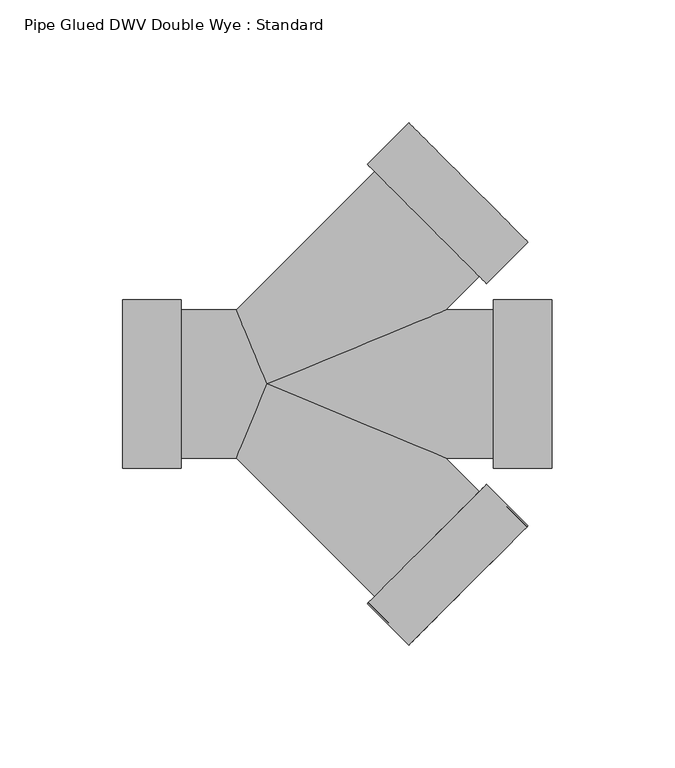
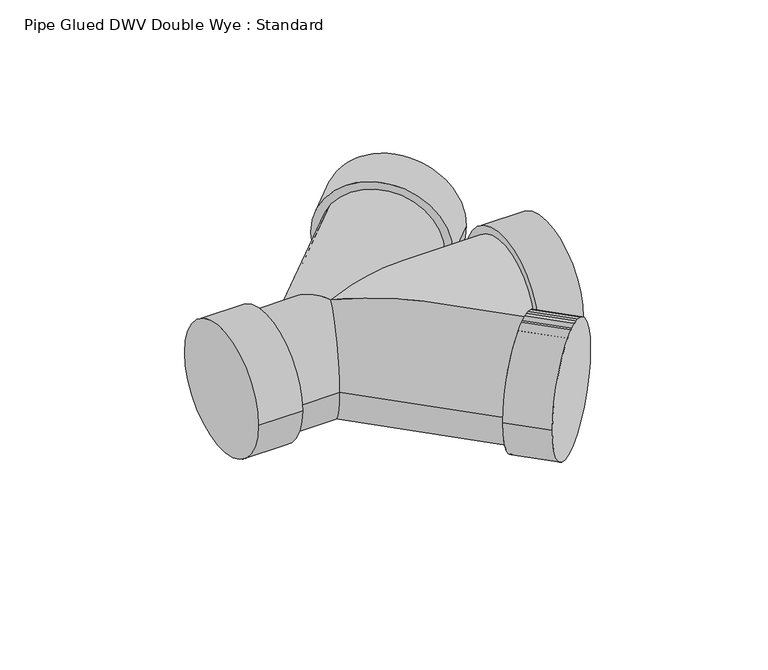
"""IFC4 building model written with IfcOpenShell, lengths in millimetres: pipe fitting geometry, Pipe Glued DWV Double Wye : Standard."""

from ifc_helpers import new_model, si_unit, frame, origin, place, context, project, spatial, circle_curve, ellipse_curve, source, transform, mapped, element, save
from ifc_brep_helpers import plane_surface, cylinder_surface, advanced_brep


def pipe_glued_dwv_double_wye_standard_5fa96171(model_context):
    return source(origin(), model_context, "Body", "AdvancedBrep", [
        advanced_brep(
        [(86.4349652, 43.7787486, 0.0), (43.7787486, 86.4349652, 0.0), (-12.4937166, 30.1625, 0.0), (0.0, 0.0, 30.1625), (72.8187166, 30.1625, 0.0), (0.0, 0.0, -30.1625), (89.3715089, 40.8422048, 0.0), (40.8422048, 89.3715089, 0.0), (106.2094891, 57.6801851, 0.0), (57.6801851, 106.2094891, 0.0), (43.7787486, -86.4349652, 0.0), (86.4349652, -43.7787486, 0.0), (72.8187166, -30.1625, 0.0), (-12.4937166, -30.1625, 0.0), (40.8422048, -89.3715089, 0.0), (89.3715089, -40.8422048, 0.0), (57.6801851, -106.2094891, 0.0), (106.2094891, -57.6801851, 0.0), (92.075, 30.1625, 0.0), (92.075, -30.1625, 0.0), (-34.925, 30.1625, 0.0), (-34.925, -30.1625, 0.0), (-58.7375, -34.3154, 0.0), (-58.7375, 34.3154, 0.0), (-34.925, -34.3154, 0.0), (-34.925, 34.3154, 0.0), (92.075, -34.3154, 0.0), (92.075, 34.3154, 0.0), (115.8875, -34.3154, 0.0), (115.8875, 34.3154, 0.0)],
        [
            (0, 1, circle_curve(frame((65.1068569, 65.1068569, 0.0), z_axis=(-0.7071067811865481, -0.7071067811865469, 0.0), x_axis=(-0.7071067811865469, 0.7071067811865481, 0.0)), 30.1625)),
            (1, 2),
            (2, 3, ellipse_curve(frame((0.0, 0.0, 0.0), z_axis=(0.923879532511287, 0.3826834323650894, 0.0), x_axis=(0.38268343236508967, -0.9238795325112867, 0.0)), 32.6476547, 30.1625)),
            (3, 4, ellipse_curve(frame((0.0, 0.0, 0.0), z_axis=(-0.3826834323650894, 0.923879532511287, 0.0), x_axis=(-0.923879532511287, -0.38268343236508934, 0.0)), 78.8184109, 30.1625)),
            (4, 0),
            (1, 0, circle_curve(frame((65.1068569, 65.1068569, 0.0), z_axis=(-0.7071067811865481, -0.7071067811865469, 0.0), x_axis=(-0.7071067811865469, 0.7071067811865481, 0.0)), 30.1625)),
            (4, 5, ellipse_curve(frame((0.0, 0.0, 0.0), z_axis=(-0.3826834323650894, 0.923879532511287, 0.0), x_axis=(-0.923879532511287, -0.38268343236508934, 0.0)), 78.8184109, 30.1625)),
            (5, 2, ellipse_curve(frame((0.0, 0.0, 0.0), z_axis=(0.923879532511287, 0.3826834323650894, 0.0), x_axis=(0.38268343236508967, -0.9238795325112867, 0.0)), 32.6476547, 30.1625)),
            (6, 7, circle_curve(frame((65.1068569, 65.1068569, 0.0), z_axis=(-0.7071067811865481, -0.707106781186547, 0.0), x_axis=(-0.707106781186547, 0.7071067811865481, 0.0)), 34.3154)),
            (7, 6, circle_curve(frame((65.1068569, 65.1068569, 0.0), z_axis=(-0.7071067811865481, -0.707106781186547, 0.0), x_axis=(-0.707106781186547, 0.7071067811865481, 0.0)), 34.3154)),
            (8, 9, circle_curve(frame((81.9448371, 81.9448371, 0.0), z_axis=(0.7071067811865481, 0.707106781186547, 0.0), x_axis=(-0.707106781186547, 0.7071067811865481, 0.0)), 34.3154)),
            (9, 8, circle_curve(frame((81.9448371, 81.9448371, 0.0), z_axis=(0.7071067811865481, 0.707106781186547, 0.0), x_axis=(-0.707106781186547, 0.7071067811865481, 0.0)), 34.3154)),
            (6, 8),
            (9, 7),
            (10, 11, circle_curve(frame((65.1068569, -65.1068569, 0.0), z_axis=(-0.707106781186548, 0.707106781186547, 0.0), x_axis=(0.707106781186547, 0.707106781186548, 0.0)), 30.1625)),
            (11, 12),
            (12, 3, ellipse_curve(frame((0.0, 0.0, 0.0), z_axis=(-0.38268343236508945, -0.923879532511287, 0.0), x_axis=(-0.923879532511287, 0.38268343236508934, 0.0)), 78.8184109, 30.1625)),
            (3, 13, ellipse_curve(frame((0.0, 0.0, 0.0), z_axis=(0.9238795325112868, -0.38268343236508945, 0.0), x_axis=(0.38268343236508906, 0.9238795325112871, 0.0)), 32.6476547, 30.1625)),
            (13, 10),
            (11, 10, circle_curve(frame((65.1068569, -65.1068569, 0.0), z_axis=(-0.707106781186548, 0.707106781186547, 0.0), x_axis=(0.707106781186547, 0.707106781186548, 0.0)), 30.1625)),
            (13, 5, ellipse_curve(frame((0.0, 0.0, 0.0), z_axis=(0.9238795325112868, -0.38268343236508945, 0.0), x_axis=(0.38268343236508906, 0.9238795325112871, 0.0)), 32.6476547, 30.1625)),
            (5, 12, ellipse_curve(frame((0.0, 0.0, 0.0), z_axis=(-0.38268343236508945, -0.923879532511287, 0.0), x_axis=(-0.923879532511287, 0.38268343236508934, 0.0)), 78.8184109, 30.1625)),
            (14, 15, circle_curve(frame((65.1068569, -65.1068569, 0.0), z_axis=(-0.7071067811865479, 0.7071067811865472, 0.0), x_axis=(0.7071067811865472, 0.7071067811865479, 0.0)), 34.3154)),
            (15, 14, circle_curve(frame((65.1068569, -65.1068569, 0.0), z_axis=(-0.7071067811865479, 0.7071067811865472, 0.0), x_axis=(0.7071067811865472, 0.7071067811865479, 0.0)), 34.3154)),
            (16, 17, circle_curve(frame((81.9448371, -81.9448371, 0.0), z_axis=(0.7071067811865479, -0.7071067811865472, 0.0), x_axis=(0.7071067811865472, 0.7071067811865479, 0.0)), 34.3154)),
            (17, 16, circle_curve(frame((81.9448371, -81.9448371, 0.0), z_axis=(0.7071067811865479, -0.7071067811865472, 0.0), x_axis=(0.7071067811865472, 0.7071067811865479, 0.0)), 34.3154)),
            (14, 16),
            (17, 15),
            (18, 4),
            (12, 19),
            (19, 18, circle_curve(frame((92.075, 0.0, 0.0), z_axis=(-1.0, 0.0, 0.0), x_axis=(0.0, 1.0, 0.0)), 30.1625)),
            (2, 20),
            (20, 21, circle_curve(frame((-34.925, 0.0, 0.0), z_axis=(1.0, 0.0, 0.0), x_axis=(0.0, 1.0, 0.0)), 30.1625)),
            (21, 13),
            (18, 19, circle_curve(frame((92.075, 0.0, 0.0), z_axis=(-1.0, 0.0, 0.0), x_axis=(0.0, 1.0, 0.0)), 30.1625)),
            (21, 20, circle_curve(frame((-34.925, 0.0, 0.0), z_axis=(1.0, 0.0, 0.0), x_axis=(0.0, 1.0, 0.0)), 30.1625)),
            (22, 23, circle_curve(frame((-58.7375, 0.0, 0.0), z_axis=(-1.0, 0.0, 0.0), x_axis=(0.0, 1.0, 0.0)), 34.3154)),
            (23, 22, circle_curve(frame((-58.7375, 0.0, 0.0), z_axis=(-1.0, 0.0, 0.0), x_axis=(0.0, 1.0, 0.0)), 34.3154)),
            (24, 25, circle_curve(frame((-34.925, 0.0, 0.0), z_axis=(1.0, 0.0, 0.0), x_axis=(0.0, 1.0, 0.0)), 34.3154)),
            (25, 24, circle_curve(frame((-34.925, 0.0, 0.0), z_axis=(1.0, 0.0, 0.0), x_axis=(0.0, 1.0, 0.0)), 34.3154)),
            (22, 24),
            (25, 23),
            (26, 27, circle_curve(frame((92.075, 0.0, 0.0), z_axis=(-1.0, 0.0, 0.0), x_axis=(0.0, 1.0, 0.0)), 34.3154)),
            (27, 26, circle_curve(frame((92.075, 0.0, 0.0), z_axis=(-1.0, 0.0, 0.0), x_axis=(0.0, 1.0, 0.0)), 34.3154)),
            (28, 29, circle_curve(frame((115.8875, 0.0, 0.0), z_axis=(1.0, 0.0, 0.0), x_axis=(0.0, 1.0, 0.0)), 34.3154)),
            (29, 28, circle_curve(frame((115.8875, 0.0, 0.0), z_axis=(1.0, 0.0, 0.0), x_axis=(0.0, 1.0, 0.0)), 34.3154)),
            (26, 28),
            (29, 27),
        ],
        [
            cylinder_surface(frame((0.0, 0.0, 0.0), z_axis=(-0.7071067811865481, -0.7071067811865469, 0.0), x_axis=(-0.7071067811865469, 0.7071067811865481, 0.0)), 30.1625),
            plane_surface(frame((65.1068569, 65.1068569, 0.0), z_axis=(-0.7071067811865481, -0.707106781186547, 0.0), x_axis=(0.0, 0.0, 1.0))),
            plane_surface(frame((81.9448371, 81.9448371, 0.0), z_axis=(0.7071067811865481, 0.707106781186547, 0.0), x_axis=(0.0, 0.0, 1.0))),
            cylinder_surface(frame((65.1068569, 65.1068569, 0.0), z_axis=(-0.7071067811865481, -0.707106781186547, 0.0), x_axis=(-0.707106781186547, 0.7071067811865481, 0.0)), 34.3154),
            cylinder_surface(frame((0.0, 0.0, 0.0), z_axis=(-0.707106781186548, 0.707106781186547, 0.0), x_axis=(0.707106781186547, 0.707106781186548, 0.0)), 30.1625),
            plane_surface(frame((65.1068569, -65.1068569, 0.0), z_axis=(-0.7071067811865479, 0.7071067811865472, 0.0), x_axis=(0.0, 0.0, 1.0))),
            plane_surface(frame((81.9448371, -81.9448371, 0.0), z_axis=(0.7071067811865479, -0.7071067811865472, 0.0), x_axis=(0.0, 0.0, 1.0))),
            cylinder_surface(frame((65.1068569, -65.1068569, 0.0), z_axis=(-0.7071067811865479, 0.7071067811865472, 0.0), x_axis=(0.7071067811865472, 0.7071067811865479, 0.0)), 34.3154),
            cylinder_surface(frame((-34.925, 0.0, 0.0), z_axis=(-1.0, 0.0, 0.0), x_axis=(0.0, 1.0, 0.0)), 30.1625),
            plane_surface(frame((-58.7375, 0.0, 0.0), z_axis=(-1.0, 0.0, 0.0), x_axis=(0.0, 0.0, 1.0))),
            plane_surface(frame((-34.925, 0.0, 0.0), z_axis=(1.0, 0.0, 0.0), x_axis=(0.0, 0.0, 1.0))),
            cylinder_surface(frame((-58.7375, 0.0, 0.0), z_axis=(-1.0, 0.0, 0.0), x_axis=(0.0, 1.0, 0.0)), 34.3154),
            plane_surface(frame((92.075, 0.0, 0.0), z_axis=(-1.0, 0.0, 0.0), x_axis=(0.0, 0.0, 1.0))),
            plane_surface(frame((115.8875, 0.0, 0.0), z_axis=(1.0, 0.0, 0.0), x_axis=(0.0, 0.0, 1.0))),
            cylinder_surface(frame((92.075, 0.0, 0.0), z_axis=(-1.0, 0.0, 0.0), x_axis=(0.0, 1.0, 0.0)), 34.3154),
        ],
        [
            (0, [[1, 2, 3, 4, 5]]),
            (0, [[6, -5, 7, 8, -2]]),
            (1, [[9, 10], [-1, -6]]),
            (2, [[11, 12]]),
            (3, [[-9, 13, -12, 14]]),
            (3, [[-10, -14, -11, -13]]),
            (4, [[15, 16, 17, 18, 19]]),
            (4, [[20, -19, 21, 22, -16]]),
            (5, [[23, 24], [-15, -20]]),
            (6, [[25, 26]]),
            (7, [[-23, 27, -26, 28]]),
            (7, [[-24, -28, -25, -27]]),
            (8, [[29, -4, -17, 30, 31]]),
            (8, [[32, 33, 34, -18, -3]]),
            (8, [[-29, 35, -30, -22, -7]]),
            (8, [[-32, -8, -21, -34, 36]]),
            (9, [[37, 38]]),
            (10, [[39, 40], [-33, -36]]),
            (11, [[-37, 41, -40, 42]]),
            (11, [[-38, -42, -39, -41]]),
            (12, [[43, 44], [-31, -35]]),
            (13, [[45, 46]]),
            (14, [[-43, 47, -46, 48]]),
            (14, [[-44, -48, -45, -47]]),
        ],
    ),
        advanced_brep(
        [(86.4349652, 43.7787486, 0.0), (43.7787486, 86.4349652, 0.0), (-12.4937166, 30.1625, 0.0), (0.0, 0.0, 30.1625), (72.8187166, 30.1625, 0.0), (0.0, 0.0, -30.1625), (89.3715089, 40.8422048, 0.0), (40.8422048, 89.3715089, 0.0), (106.2094891, 57.6801851, 0.0), (57.6801851, 106.2094891, 0.0), (43.7787486, -86.4349652, 0.0), (86.4349652, -43.7787486, 0.0), (72.8187166, -30.1625, 0.0), (-12.4937166, -30.1625, 0.0), (106.2094891, -57.6801851, 0.0), (57.6801851, -106.2094891, 0.0), (89.3715089, -40.8422048, 0.0), (40.8422048, -89.3715089, 0.0), (92.075, 30.1625, 0.0), (92.075, -30.1625, 0.0), (-34.925, 30.1625, 0.0), (-34.925, -30.1625, 0.0), (-34.925, 34.3154, 0.0), (-34.925, -34.3154, 0.0), (-58.7375, 34.3154, 0.0), (-58.7375, -34.3154, 0.0), (92.075, -34.3154, 0.0), (92.075, 34.3154, 0.0), (115.8875, -34.3154, 0.0), (115.8875, 34.3154, 0.0)],
        [
            (0, 1, circle_curve(frame((65.1068569, 65.1068569, 0.0), z_axis=(-0.7071067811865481, -0.707106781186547, 0.0), x_axis=(-0.707106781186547, 0.7071067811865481, 0.0)), 30.1625)),
            (1, 2),
            (2, 3, ellipse_curve(frame((0.0, 0.0, 0.0), z_axis=(0.923879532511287, 0.38268343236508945, 0.0), x_axis=(0.38268343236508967, -0.923879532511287, 0.0)), 32.6476547, 30.1625)),
            (3, 4, ellipse_curve(frame((0.0, 0.0, 0.0), z_axis=(-0.3826834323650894, 0.9238795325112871, 0.0), x_axis=(-0.9238795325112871, -0.38268343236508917, 0.0)), 78.8184109, 30.1625)),
            (4, 0),
            (1, 0, circle_curve(frame((65.1068569, 65.1068569, 0.0), z_axis=(-0.7071067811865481, -0.707106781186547, 0.0), x_axis=(-0.707106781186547, 0.7071067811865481, 0.0)), 30.1625)),
            (4, 5, ellipse_curve(frame((0.0, 0.0, 0.0), z_axis=(-0.3826834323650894, 0.9238795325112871, 0.0), x_axis=(-0.9238795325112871, -0.38268343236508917, 0.0)), 78.8184109, 30.1625)),
            (5, 2, ellipse_curve(frame((0.0, 0.0, 0.0), z_axis=(0.923879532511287, 0.38268343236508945, 0.0), x_axis=(0.38268343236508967, -0.923879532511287, 0.0)), 32.6476547, 30.1625)),
            (6, 7, circle_curve(frame((65.1068569, 65.1068569, 0.0), z_axis=(-0.7071067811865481, -0.707106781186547, 0.0), x_axis=(-0.707106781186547, 0.7071067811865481, 0.0)), 34.3154)),
            (7, 6, circle_curve(frame((65.1068569, 65.1068569, 0.0), z_axis=(-0.7071067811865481, -0.707106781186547, 0.0), x_axis=(-0.707106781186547, 0.7071067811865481, 0.0)), 34.3154)),
            (8, 9, circle_curve(frame((81.9448371, 81.9448371, 0.0), z_axis=(0.7071067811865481, 0.707106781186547, 0.0), x_axis=(-0.707106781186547, 0.7071067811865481, 0.0)), 34.3154)),
            (9, 8, circle_curve(frame((81.9448371, 81.9448371, 0.0), z_axis=(0.7071067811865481, 0.707106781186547, 0.0), x_axis=(-0.707106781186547, 0.7071067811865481, 0.0)), 34.3154)),
            (6, 8),
            (9, 7),
            (10, 11, circle_curve(frame((65.1068569, -65.1068569, 0.0), z_axis=(-0.707106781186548, 0.707106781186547, 0.0), x_axis=(0.707106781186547, 0.707106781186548, 0.0)), 30.1625)),
            (11, 12),
            (12, 3, ellipse_curve(frame((0.0, 0.0, 0.0), z_axis=(-0.38268343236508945, -0.923879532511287, 0.0), x_axis=(-0.923879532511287, 0.38268343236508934, 0.0)), 78.8184109, 30.1625)),
            (3, 13, ellipse_curve(frame((0.0, 0.0, 0.0), z_axis=(0.9238795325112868, -0.38268343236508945, 0.0), x_axis=(0.38268343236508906, 0.9238795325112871, 0.0)), 32.6476547, 30.1625)),
            (13, 10),
            (11, 10, circle_curve(frame((65.1068569, -65.1068569, 0.0), z_axis=(-0.707106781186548, 0.707106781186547, 0.0), x_axis=(0.707106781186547, 0.707106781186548, 0.0)), 30.1625)),
            (13, 5, ellipse_curve(frame((0.0, 0.0, 0.0), z_axis=(0.9238795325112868, -0.38268343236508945, 0.0), x_axis=(0.38268343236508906, 0.9238795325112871, 0.0)), 32.6476547, 30.1625)),
            (5, 12, ellipse_curve(frame((0.0, 0.0, 0.0), z_axis=(-0.38268343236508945, -0.923879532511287, 0.0), x_axis=(-0.923879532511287, 0.38268343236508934, 0.0)), 78.8184109, 30.1625)),
            (14, 15, circle_curve(frame((81.9448371, -81.9448371, 0.0), z_axis=(0.7071067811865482, -0.7071067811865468, 0.0), x_axis=(-0.7071067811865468, -0.7071067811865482, 0.0)), 34.3154)),
            (15, 14, circle_curve(frame((81.9448371, -81.9448371, 0.0), z_axis=(0.7071067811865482, -0.7071067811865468, 0.0), x_axis=(-0.7071067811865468, -0.7071067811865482, 0.0)), 34.3154)),
            (16, 17, circle_curve(frame((65.1068569, -65.1068569, 0.0), z_axis=(-0.7071067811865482, 0.7071067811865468, 0.0), x_axis=(-0.7071067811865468, -0.7071067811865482, 0.0)), 34.3154)),
            (17, 16, circle_curve(frame((65.1068569, -65.1068569, 0.0), z_axis=(-0.7071067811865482, 0.7071067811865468, 0.0), x_axis=(-0.7071067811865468, -0.7071067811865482, 0.0)), 34.3154)),
            (14, 16),
            (17, 15),
            (18, 4),
            (12, 19),
            (19, 18, circle_curve(frame((92.075, 0.0, 0.0), z_axis=(-1.0, 0.0, 0.0), x_axis=(0.0, 1.0, 0.0)), 30.1625)),
            (2, 20),
            (20, 21, circle_curve(frame((-34.925, 0.0, 0.0), z_axis=(1.0, 0.0, 0.0), x_axis=(0.0, 1.0, 0.0)), 30.1625)),
            (21, 13),
            (18, 19, circle_curve(frame((92.075, 0.0, 0.0), z_axis=(-1.0, 0.0, 0.0), x_axis=(0.0, 1.0, 0.0)), 30.1625)),
            (21, 20, circle_curve(frame((-34.925, 0.0, 0.0), z_axis=(1.0, 0.0, 0.0), x_axis=(0.0, 1.0, 0.0)), 30.1625)),
            (22, 23, circle_curve(frame((-34.925, 0.0, 0.0), z_axis=(1.0, 0.0, 0.0), x_axis=(0.0, -1.0, 0.0)), 34.3154)),
            (23, 22, circle_curve(frame((-34.925, 0.0, 0.0), z_axis=(1.0, 0.0, 0.0), x_axis=(0.0, -1.0, 0.0)), 34.3154)),
            (24, 25, circle_curve(frame((-58.7375, 0.0, 0.0), z_axis=(-1.0, 0.0, 0.0), x_axis=(0.0, -1.0, 0.0)), 34.3154)),
            (25, 24, circle_curve(frame((-58.7375, 0.0, 0.0), z_axis=(-1.0, 0.0, 0.0), x_axis=(0.0, -1.0, 0.0)), 34.3154)),
            (22, 24),
            (25, 23),
            (26, 27, circle_curve(frame((92.075, 0.0, 0.0), z_axis=(-1.0, 0.0, 0.0), x_axis=(0.0, 1.0, 0.0)), 34.3154)),
            (27, 26, circle_curve(frame((92.075, 0.0, 0.0), z_axis=(-1.0, 0.0, 0.0), x_axis=(0.0, 1.0, 0.0)), 34.3154)),
            (28, 29, circle_curve(frame((115.8875, 0.0, 0.0), z_axis=(1.0, 0.0, 0.0), x_axis=(0.0, 1.0, 0.0)), 34.3154)),
            (29, 28, circle_curve(frame((115.8875, 0.0, 0.0), z_axis=(1.0, 0.0, 0.0), x_axis=(0.0, 1.0, 0.0)), 34.3154)),
            (26, 28),
            (29, 27),
        ],
        [
            cylinder_surface(frame((0.0, 0.0, 0.0), z_axis=(-0.7071067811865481, -0.707106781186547, 0.0), x_axis=(-0.707106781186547, 0.7071067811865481, 0.0)), 30.1625),
            plane_surface(frame((65.1068569, 65.1068569, 0.0), z_axis=(-0.7071067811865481, -0.707106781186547, 0.0), x_axis=(0.0, 0.0, 1.0))),
            plane_surface(frame((81.9448371, 81.9448371, 0.0), z_axis=(0.7071067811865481, 0.707106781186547, 0.0), x_axis=(0.0, 0.0, 1.0))),
            cylinder_surface(frame((65.1068569, 65.1068569, 0.0), z_axis=(-0.7071067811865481, -0.707106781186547, 0.0), x_axis=(-0.707106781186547, 0.7071067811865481, 0.0)), 34.3154),
            cylinder_surface(frame((0.0, 0.0, 0.0), z_axis=(-0.707106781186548, 0.707106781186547, 0.0), x_axis=(0.707106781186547, 0.707106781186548, 0.0)), 30.1625),
            plane_surface(frame((81.9448371, -81.9448371, 0.0), z_axis=(0.7071067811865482, -0.7071067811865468, 0.0), x_axis=(0.0, 0.0, 1.0))),
            plane_surface(frame((65.1068569, -65.1068569, 0.0), z_axis=(-0.7071067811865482, 0.7071067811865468, 0.0), x_axis=(0.0, 0.0, 1.0))),
            cylinder_surface(frame((81.9448371, -81.9448371, 0.0), z_axis=(0.7071067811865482, -0.7071067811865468, 0.0), x_axis=(-0.7071067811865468, -0.7071067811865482, 0.0)), 34.3154),
            cylinder_surface(frame((-34.925, 0.0, 0.0), z_axis=(-1.0, 0.0, 0.0), x_axis=(0.0, 1.0, 0.0)), 30.1625),
            plane_surface(frame((-34.925, 0.0, 0.0), z_axis=(1.0, 0.0, 0.0), x_axis=(0.0, 0.0, 1.0))),
            plane_surface(frame((-58.7375, 0.0, 0.0), z_axis=(-1.0, 0.0, 0.0), x_axis=(0.0, 0.0, 1.0))),
            cylinder_surface(frame((-34.925, 0.0, 0.0), z_axis=(1.0, 0.0, 0.0), x_axis=(0.0, -1.0, 0.0)), 34.3154),
            plane_surface(frame((92.075, 0.0, 0.0), z_axis=(-1.0, 0.0, 0.0), x_axis=(0.0, 0.0, 1.0))),
            plane_surface(frame((115.8875, 0.0, 0.0), z_axis=(1.0, 0.0, 0.0), x_axis=(0.0, 0.0, 1.0))),
            cylinder_surface(frame((92.075, 0.0, 0.0), z_axis=(-1.0, 0.0, 0.0), x_axis=(0.0, 1.0, 0.0)), 34.3154),
        ],
        [
            (0, [[1, 2, 3, 4, 5]]),
            (0, [[6, -5, 7, 8, -2]]),
            (1, [[9, 10], [-1, -6]]),
            (2, [[11, 12]]),
            (3, [[-9, 13, -12, 14]]),
            (3, [[-10, -14, -11, -13]]),
            (4, [[15, 16, 17, 18, 19]]),
            (4, [[20, -19, 21, 22, -16]]),
            (5, [[23, 24]]),
            (6, [[25, 26], [-15, -20]]),
            (7, [[-23, 27, -26, 28]]),
            (7, [[-24, -28, -25, -27]]),
            (8, [[29, -4, -17, 30, 31]]),
            (8, [[32, 33, 34, -18, -3]]),
            (8, [[-29, 35, -30, -22, -7]]),
            (8, [[-32, -8, -21, -34, 36]]),
            (9, [[37, 38], [-33, -36]]),
            (10, [[39, 40]]),
            (11, [[-37, 41, -40, 42]]),
            (11, [[-38, -42, -39, -41]]),
            (12, [[43, 44], [-31, -35]]),
            (13, [[45, 46]]),
            (14, [[-43, 47, -46, 48]]),
            (14, [[-44, -48, -45, -47]]),
        ],
    ),
    ])


if __name__ == "__main__":
    model = new_model("IFC4")
    model_context = context("Model", 3, world=origin())
    ifc_project = project(units=[si_unit("LENGTHUNIT", "METRE", prefix="MILLI")], contexts=[model_context])
    site = spatial("IfcSite", under=ifc_project)
    building = spatial("IfcBuilding", under=site)
    placement = place(None, origin())
    pipe_glued_dwv_double_wye_standard_shape = pipe_glued_dwv_double_wye_standard_5fa96171(model_context)
    element("IfcPipeFitting", 1, ObjectType="Pipe Glued DWV Double Wye : Standard", at=placement, inside=building, context=model_context, shape_type="MappedRepresentation", body=[
        mapped(pipe_glued_dwv_double_wye_standard_shape, transform((0.0, 0.0, 0.0), x_axis=(1.0, 0.0, 0.0), y_axis=(0.0, 1.0, 0.0), z_axis=(0.0, 0.0, 1.0))),
    ])
    save(model, "model.ifc")
